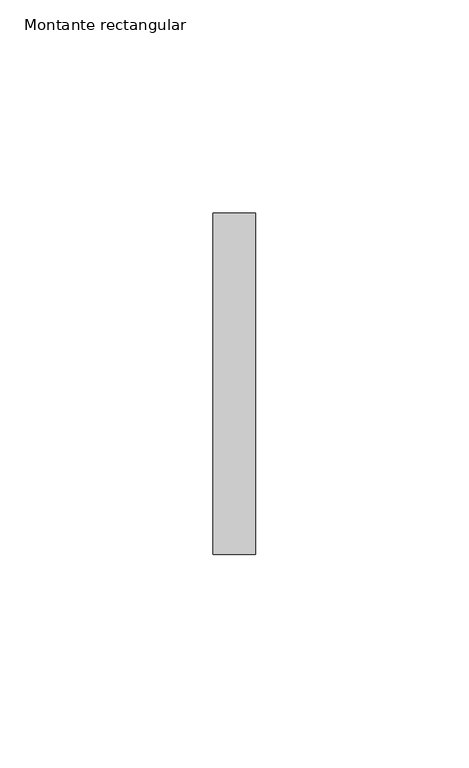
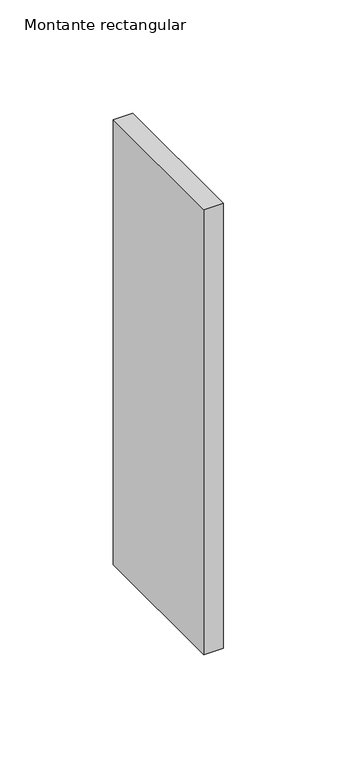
"""IFC4 building model written with IfcOpenShell, lengths in millimetres: member geometry, Montante rectangular : Junta de paves."""

from ifc_helpers import new_model, si_unit, frame, origin, place, context, project, spatial, polyline, outline, extrude, source, transform, mapped, element, save


def montante_rectangular_223da8a3(model_context):
    return source(origin(), model_context, "Body", "SweptSolid", [
        extrude(outline(polyline([(5.0, 40.0), (5.0, -40.0), (-5.0, -40.0), (-5.0, 40.0), (5.0, 40.0)])), frame((0.0, 0.0, -240.0), z_axis=(0.0, 0.0, 1.0), x_axis=(1.0, 0.0, 0.0)), (0.0, 0.0, 1.0), 240.0),
    ])


if __name__ == "__main__":
    model = new_model("IFC4")
    model_context = context("Model", 3, world=origin())
    ifc_project = project(units=[si_unit("LENGTHUNIT", "METRE", prefix="MILLI")], contexts=[model_context])
    site = spatial("IfcSite", under=ifc_project)
    building = spatial("IfcBuilding", under=site)
    placement = place(None, origin())
    montante_rectangular_shape = montante_rectangular_223da8a3(model_context)
    element("IfcMember", 1, ObjectType="Montante rectangular : Junta de paves", at=placement, inside=building, context=model_context, shape_type="MappedRepresentation", body=[
        mapped(montante_rectangular_shape, transform((0.0, 0.0, 0.0), x_axis=(1.0, 0.0, 0.0), y_axis=(0.0, 1.0, 0.0), z_axis=(0.0, 0.0, 1.0))),
    ])
    save(model, "model.ifc")
